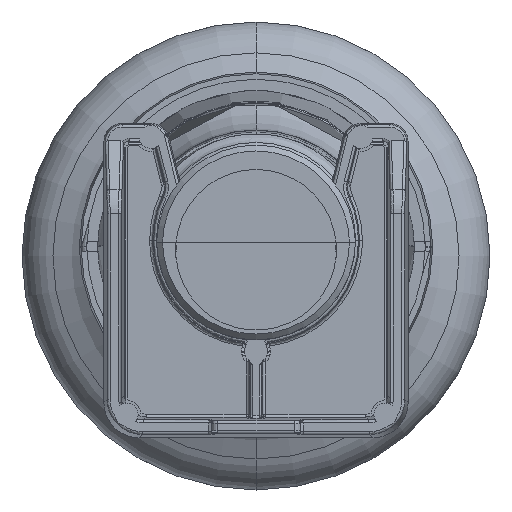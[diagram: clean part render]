
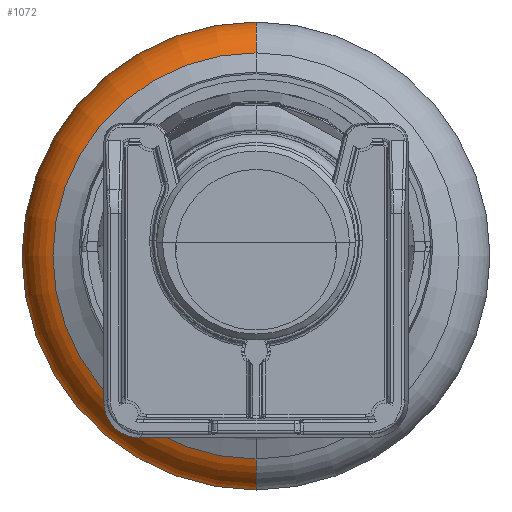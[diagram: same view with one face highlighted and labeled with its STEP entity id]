
A CAD part, top view. The second image highlights one B-rep face of the part: STEP entity #1072.
In plain terms, the highlighted toroidal (fillet/blend) face has major radius 32 mm and minor radius 8 mm.
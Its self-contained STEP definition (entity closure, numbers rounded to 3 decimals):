
#337 = AXIS2_PLACEMENT_3D ( 'NONE', #798, #5657, #9056 ) ;
#777 = CARTESIAN_POINT ( 'NONE',  ( -215., -40., -58. ) ) ;
#798 = CARTESIAN_POINT ( 'NONE',  ( -215., 0., -50.475 ) ) ;
#841 = AXIS2_PLACEMENT_3D ( 'NONE', #12870, #19764, #9137 ) ;
#1038 = VERTEX_POINT ( 'NONE', #7895 ) ;
#1072 = ADVANCED_FACE ( 'NONE', ( #6077 ), #10595, .T. ) ;
#2132 = CIRCLE ( 'NONE', #337, 34.714 ) ;
#2515 = EDGE_CURVE ( 'NONE', #13800, #4314, #13013, .T. ) ;
#2902 = DIRECTION ( 'NONE',  ( 0., 0., 1. ) ) ;
#3084 = DIRECTION ( 'NONE',  ( 0., 0., 1. ) ) ;
#3543 = EDGE_LOOP ( 'NONE', ( #16610, #10935, #17581, #20342 ) ) ;
#4314 = VERTEX_POINT ( 'NONE', #5202 ) ;
#4570 = CARTESIAN_POINT ( 'NONE',  ( -215., 32., -58. ) ) ;
#5202 = CARTESIAN_POINT ( 'NONE',  ( -215., 34.714, -50.475 ) ) ;
#5657 = DIRECTION ( 'NONE',  ( 0., 0., 1. ) ) ;
#6077 = FACE_OUTER_BOUND ( 'NONE', #3543, .T. ) ;
#7895 = CARTESIAN_POINT ( 'NONE',  ( -215., -34.714, -50.475 ) ) ;
#9056 = DIRECTION ( 'NONE',  ( 0., 1., 0. ) ) ;
#9137 = DIRECTION ( 'NONE',  ( 0., 1., 0. ) ) ;
#10128 = AXIS2_PLACEMENT_3D ( 'NONE', #4570, #11028, #21755 ) ;
#10595 = TOROIDAL_SURFACE ( 'NONE', #841, 32., 8. ) ;
#10935 = ORIENTED_EDGE ( 'NONE', *, *, #18242, .T. ) ;
#11028 = DIRECTION ( 'NONE',  ( 1., 0., 0. ) ) ;
#12435 = CIRCLE ( 'NONE', #15333, 8. ) ;
#12870 = CARTESIAN_POINT ( 'NONE',  ( -215., 0., -58. ) ) ;
#13013 = CIRCLE ( 'NONE', #10128, 8. ) ;
#13800 = VERTEX_POINT ( 'NONE', #19576 ) ;
#13999 = EDGE_CURVE ( 'NONE', #4314, #1038, #2132, .T. ) ;
#14789 = CARTESIAN_POINT ( 'NONE',  ( -215., 0., -58. ) ) ;
#14957 = CARTESIAN_POINT ( 'NONE',  ( -215., -32., -58. ) ) ;
#15068 = DIRECTION ( 'NONE',  ( -1., 0., 0. ) ) ;
#15333 = AXIS2_PLACEMENT_3D ( 'NONE', #14957, #15068, #3084 ) ;
#16610 = ORIENTED_EDGE ( 'NONE', *, *, #21456, .T. ) ;
#17581 = ORIENTED_EDGE ( 'NONE', *, *, #13999, .F. ) ;
#18242 = EDGE_CURVE ( 'NONE', #18504, #1038, #12435, .T. ) ;
#18504 = VERTEX_POINT ( 'NONE', #777 ) ;
#19576 = CARTESIAN_POINT ( 'NONE',  ( -215., 40., -58. ) ) ;
#19764 = DIRECTION ( 'NONE',  ( 0., 0., 1. ) ) ;
#20342 = ORIENTED_EDGE ( 'NONE', *, *, #2515, .F. ) ;
#20765 = AXIS2_PLACEMENT_3D ( 'NONE', #14789, #2902, #21683 ) ;
#21456 = EDGE_CURVE ( 'NONE', #13800, #18504, #22210, .T. ) ;
#21683 = DIRECTION ( 'NONE',  ( 0., 1., 0. ) ) ;
#21755 = DIRECTION ( 'NONE',  ( 0., 0., -1. ) ) ;
#22210 = CIRCLE ( 'NONE', #20765, 40. ) ;
